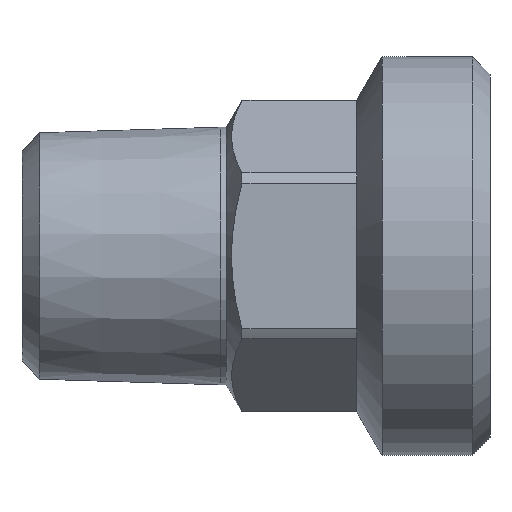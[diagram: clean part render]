
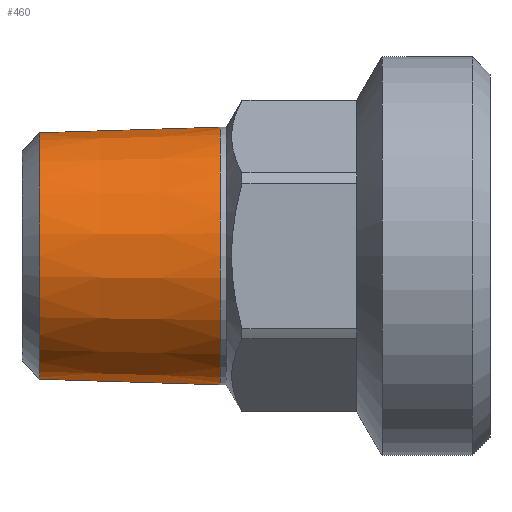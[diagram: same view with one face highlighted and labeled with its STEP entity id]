
A CAD part, top view. The second image highlights one B-rep face of the part: STEP entity #460.
In plain terms, the highlighted conical face has half-angle 1.78 degrees and reference radius 10.476 mm.
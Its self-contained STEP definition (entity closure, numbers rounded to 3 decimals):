
#163=CARTESIAN_POINT('',(16.5,10.733,0.0));
#164=VERTEX_POINT('',#163);
#171=CARTESIAN_POINT('',(16.5,-10.733,0.));
#172=VERTEX_POINT('',#171);
#173=CARTESIAN_POINT('',(16.5,0.0,0.0));
#174=DIRECTION('',(1.0,0.0,0.0));
#175=DIRECTION('',(0.0,1.0,0.0));
#176=AXIS2_PLACEMENT_3D('',#173,#174,#175);
#177=CIRCLE('',#176,10.733);
#178=EDGE_CURVE('',#164,#172,#177,.T.);
#429=CARTESIAN_POINT('',(8.25,0.0,0.0));
#430=DIRECTION('',(1.0,0.0,0.0));
#431=DIRECTION('',(0.0,1.0,0.0));
#432=AXIS2_PLACEMENT_3D('',#429,#430,#431);
#433=CONICAL_SURFACE('',#432,10.476,1.78);
#434=CARTESIAN_POINT('',(1.499,10.267,0.));
#435=VERTEX_POINT('',#434);
#436=CARTESIAN_POINT('',(1.499,10.267,0.));
#437=DIRECTION('',(1.,0.031,0.));
#438=VECTOR('',#437,15.008);
#439=LINE('',#436,#438);
#440=EDGE_CURVE('',#435,#164,#439,.T.);
#441=ORIENTED_EDGE('',*,*,#440,.F.);
#442=CARTESIAN_POINT('',(1.499,-10.267,0.));
#443=VERTEX_POINT('',#442);
#444=CARTESIAN_POINT('',(1.499,0.0,0.));
#445=DIRECTION('',(-1.0,0.0,0.0));
#446=DIRECTION('',(0.0,-1.0,0.0));
#447=AXIS2_PLACEMENT_3D('',#444,#445,#446);
#448=CIRCLE('',#447,10.267);
#449=EDGE_CURVE('',#443,#435,#448,.T.);
#450=ORIENTED_EDGE('',*,*,#449,.F.);
#451=CARTESIAN_POINT('',(16.5,-10.733,0.));
#452=DIRECTION('',(-1.,0.031,0.));
#453=VECTOR('',#452,15.008);
#454=LINE('',#451,#453);
#455=EDGE_CURVE('',#172,#443,#454,.T.);
#456=ORIENTED_EDGE('',*,*,#455,.F.);
#457=ORIENTED_EDGE('',*,*,#178,.F.);
#458=EDGE_LOOP('',(#441,#450,#456,#457));
#459=FACE_OUTER_BOUND('',#458,.T.);
#460=ADVANCED_FACE('',(#459),#433,.T.);
